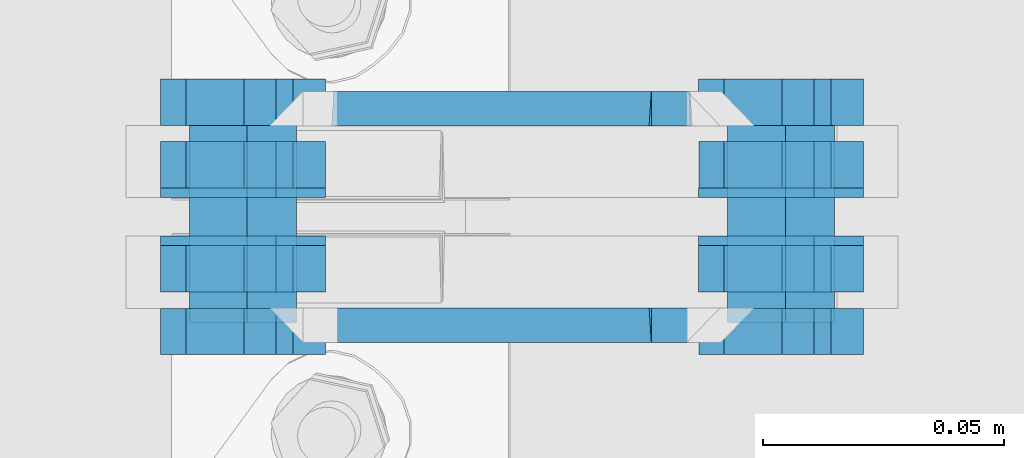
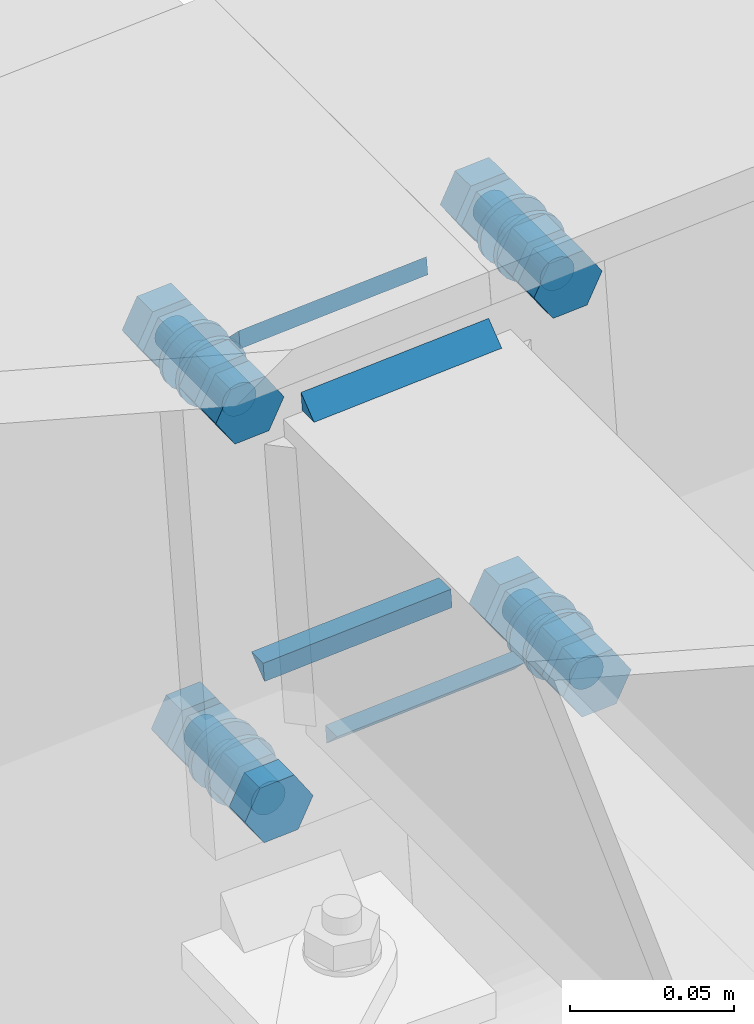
# One storey, part 52 of 72: 32 mechanical fasteners, 6 fasteners.
"""IFC4 building model written with IfcOpenShell, lengths in metres."""

import ifcopenshell
import ifcopenshell.guid

model = None  # the IFC model being written
_history = None  # IfcOwnerHistory: only IFC2X3 demands one
_inside = {}  # id of a spatial element -> (the spatial element, [elements in it])
_under = {}  # id of a project, library or spatial element -> (it, [spatial elements below it])
_declared = {}  # id of a project -> (the project, [libraries it declares])
_typed = {}  # id of a type object -> (the type object, [elements of that type])
_made_of = {}  # id of a material, layer set ... -> (it, [elements and type objects made of it])


def new_model(schema):
    """Start an empty IFC model of exactly this schema.

    Asked for "IFC4X3", IfcOpenShell would pick the latest addendum, in which some entities
    have other attributes; the version numbers below select the first issue.
    IFC2X3 requires an IfcOwnerHistory on every rooted entity: one is made here for all.
    """
    global model, _history
    if schema == "IFC4X3":
        model = ifcopenshell.file(schema_version=(4, 3, 0, 0))
    else:
        model = ifcopenshell.file(schema=schema)
    _inside.clear()
    _under.clear()
    _declared.clear()
    _typed.clear()
    _made_of.clear()
    _history = None
    if model.schema == "IFC2X3":
        org = make("IfcOrganization", Name="unknown")
        user = make(
            "IfcPersonAndOrganization",
            ThePerson=make("IfcPerson", FamilyName="unknown"),
            TheOrganization=org,
        )
        app = make(
            "IfcApplication",
            ApplicationDeveloper=org,
            Version="unknown",
            ApplicationFullName="unknown",
            ApplicationIdentifier="unknown",
        )
        _history = make(
            "IfcOwnerHistory",
            OwningUser=user,
            OwningApplication=app,
            ChangeAction="ADDED",
            CreationDate=0,
        )
    return model


def make(cls, **values):
    """One entity of the class cls with the attributes given. An attribute that is None is left unset."""
    return model.create_entity(
        cls, **{name: value for name, value in values.items() if value is not None}
    )


def rooted(cls, **values):
    """An entity with a GlobalId (a new one), such as an element, a storey or a relation."""
    return make(cls, GlobalId=ifcopenshell.guid.new(), OwnerHistory=_history, **values)


def si_unit(unit_type, name, prefix=None):
    """IfcSIUnit, for example si_unit("LENGTHUNIT", "METRE", prefix="MILLI")."""
    return make("IfcSIUnit", UnitType=unit_type, Prefix=prefix, Name=name)


def assignment(units):
    """IfcUnitAssignment: the units of a project."""
    return None if units is None else make("IfcUnitAssignment", Units=units)


def point(xyz):
    """IfcCartesianPoint."""
    return None if xyz is None else make("IfcCartesianPoint", Coordinates=xyz)


def direction(xyz):
    """IfcDirection."""
    return None if xyz is None else make("IfcDirection", DirectionRatios=xyz)


def frame(location, z_axis=None, x_axis=None):
    """IfcAxis2Placement3D, a coordinate frame: its origin and axes. An axis left out is left unset."""
    return make(
        "IfcAxis2Placement3D",
        Location=point(location),
        Axis=direction(z_axis),
        RefDirection=direction(x_axis),
    )


def origin_with_axes():
    """The frame at (0, 0, 0) with the z axis (0, 0, 1) and the x axis (1, 0, 0) written out."""
    return frame((0.0, 0.0, 0.0), z_axis=(0.0, 0.0, 1.0), x_axis=(1.0, 0.0, 0.0))


def place(relative_to, where):
    """IfcLocalPlacement: puts the frame where relative to a parent placement (None: the world)."""
    return make(
        "IfcLocalPlacement", PlacementRelTo=relative_to, RelativePlacement=where
    )


def context(
    kind, dimensions, precision=None, world=None, true_north=None, identifier=None
):
    """IfcGeometricRepresentationContext, for example the 3D "Model" context."""
    return make(
        "IfcGeometricRepresentationContext",
        ContextIdentifier=identifier,
        ContextType=kind,
        CoordinateSpaceDimension=dimensions,
        Precision=precision,
        WorldCoordinateSystem=world,
        TrueNorth=true_north,
    )


def project(units=None, contexts=None):
    """IfcProject with its units and contexts."""
    return rooted(
        "IfcProject",
        Name="project",
        RepresentationContexts=contexts,
        UnitsInContext=assignment(units),
    )


def spatial(cls, under=None, at=None, **own):
    """A site, building, storey or space (cls), placed at a placement, below another one or the project."""
    s = rooted(cls, ObjectPlacement=at, **own)
    if under is not None:
        _under.setdefault(under.id(), (under, []))[1].append(s)
    return s


def polyline(points):
    """IfcPolyline through the points."""
    return make("IfcPolyline", Points=[point(p) for p in points])


def outline(outer, holes=None, kind="AREA"):
    """IfcArbitraryClosedProfileDef: a profile drawn as a closed curve; with holes, ...WithVoids."""
    if holes is None:
        return make("IfcArbitraryClosedProfileDef", ProfileType=kind, OuterCurve=outer)
    return make(
        "IfcArbitraryProfileDefWithVoids",
        ProfileType=kind,
        OuterCurve=outer,
        InnerCurves=holes,
    )


def extrude(swept, where, along, depth):
    """IfcExtrudedAreaSolid: the profile swept, set in the frame where, extruded along a direction by depth."""
    return make(
        "IfcExtrudedAreaSolid",
        SweptArea=swept,
        Position=where,
        ExtrudedDirection=direction(along),
        Depth=depth,
    )


def shape(context_of_items, identifier, shape_type, items):
    """IfcShapeRepresentation: the items that make up one representation, for example the "Body"."""
    return make(
        "IfcShapeRepresentation",
        ContextOfItems=context_of_items,
        RepresentationIdentifier=identifier,
        RepresentationType=shape_type,
        Items=items,
    )


def made_of(thing, what):
    """Note that an element or type object is made of a material, layer set ...; save() writes the relation."""
    if what is not None:
        _made_of.setdefault(what.id(), (what, []))[1].append(thing)
    return thing


def type_object(cls, material=None, **own):
    """A type object (cls), such as IfcWallType, which elements share."""
    return made_of(rooted(cls, **own), material)


def element(
    cls,
    number,
    at=None,
    inside=None,
    cuts=None,
    type_object=None,
    material=None,
    context=None,
    identifier="Body",
    shape_type=None,
    held_by="IfcProductDefinitionShape",
    body=None,
    shapes=None,
    **own,
):
    """One element of the class cls, such as IfcWall. Its Tag is "e" and its number.

    at: its placement. inside: the storey or other place that contains it. cuts: it is an
    opening in that element (IfcRelVoidsElement). A single representation is given by context,
    identifier, shape_type and body (its items); several are given by shapes. held_by: the class
    of the entity that holds the representations. save() writes the other relations.
    """
    e = rooted(cls, Tag="e%d" % number, ObjectPlacement=at, **own)
    if body is not None:
        shapes = [shape(context, identifier, shape_type, body)]
    if shapes is not None:
        e.Representation = make(held_by, Representations=shapes)
    if inside is not None:
        _inside.setdefault(inside.id(), (inside, []))[1].append(e)
    if cuts is not None:
        rooted(
            "IfcRelVoidsElement", RelatingBuildingElement=cuts, RelatedOpeningElement=e
        )
    if type_object is not None:
        _typed.setdefault(type_object.id(), (type_object, []))[1].append(e)
    return made_of(e, material)


def aggregate(whole, parts):
    """IfcRelAggregates: a whole, such as a stair, and the parts it consists of."""
    return rooted("IfcRelAggregates", RelatingObject=whole, RelatedObjects=parts)


def save(model, path):
    """Write the relations noted so far, then the file.

    IfcRelAggregates (storeys below a building ...), IfcRelContainedInSpatialStructure (elements
    in a storey), IfcRelDefinesByType, IfcRelAssociatesMaterial and IfcRelDeclares: one each for
    every whole, place, type object, material and project.
    """
    for whole, parts in _under.values():
        aggregate(whole, parts)
    for where, things in _inside.values():
        rooted(
            "IfcRelContainedInSpatialStructure",
            RelatedElements=things,
            RelatingStructure=where,
        )
    for kind, things in _typed.values():
        rooted("IfcRelDefinesByType", RelatedObjects=things, RelatingType=kind)
    for what, things in _made_of.values():
        rooted("IfcRelAssociatesMaterial", RelatedObjects=things, RelatingMaterial=what)
    for by, libraries in _declared.values():
        rooted("IfcRelDeclares", RelatingContext=by, RelatedDefinitions=libraries)
    model.write(path)


model = new_model("IFC4")

# Units and contexts
model_context = context("Model", 3, precision=1e-05, world=origin_with_axes())
ifc_project = project(units=[si_unit("LENGTHUNIT", "METRE"), si_unit("AREAUNIT", "SQUARE_METRE"), si_unit("VOLUMEUNIT", "CUBIC_METRE"), si_unit("MASSUNIT", "GRAM", prefix="KILO"), si_unit("TIMEUNIT", "SECOND"), si_unit("PLANEANGLEUNIT", "RADIAN"), si_unit("SOLIDANGLEUNIT", "STERADIAN"), si_unit("THERMODYNAMICTEMPERATUREUNIT", "DEGREE_CELSIUS")], contexts=[model_context])

# Site, building, storey
placement_1 = place(None, origin_with_axes())
site = spatial("IfcSite", under=ifc_project, at=placement_1, Name="Italia", CompositionType="ELEMENT")
building = spatial("IfcBuilding", under=site, at=placement_1, Name="Pensilina", CompositionType="ELEMENT")
storey = spatial("IfcBuildingStorey", under=building, at=placement_1, Name="Storey 0", CompositionType="ELEMENT", Elevation=0.0)

# Fasteners
fastener_type_1 = type_object("IfcFastenerType", Name="Collegamento 0603_0602", PredefinedType="WELD")
placement_2 = place(placement_1, origin_with_axes())
fastener_1_placement = place(placement_2, origin_with_axes())
element("IfcFastener", 1, at=fastener_1_placement, inside=storey, type_object=fastener_type_1, Name="Collegamento 0603_0602", context=model_context, shape_type="SweptSolid", body=[
    extrude(outline(polyline([(0.0, 0.0, 0.0), (0.00717354, -0.00695801, 0.0), (0.0, -0.00695801, 0.0), (0.0, 0.0, 0.0)])), frame((5.83828, 10.5411, 4.09456), z_axis=(-0.997731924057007, 0.0, -0.067312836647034), x_axis=(0.0, -1.0, 0.0)), (0.0, 0.0, 1.0), 0.0660998),
])
fastener_type_2 = type_object("IfcFastenerType", Name="Collegamento 0603_0602", PredefinedType="WELD")
fastener_2_placement = place(placement_2, origin_with_axes())
element("IfcFastener", 2, at=fastener_2_placement, inside=storey, type_object=fastener_type_2, Name="Collegamento 0603_0602", context=model_context, shape_type="SweptSolid", body=[
    extrude(outline(polyline([(0.0, 0.0, 0.0), (-0.00717354, 0.00695801, 0.0), (0.0, 0.00695801, 0.0), (0.0, 0.0, 0.0)])), frame((5.78134, 10.5411, 3.9566), z_axis=(0.997731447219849, 0.0, 0.06731953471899), x_axis=(0.0, 1.0, 0.0)), (0.0, 0.0, 1.0), 0.0661003),
])

# Mechanical fasteners
mechanical_fastener_type_1 = type_object("IfcMechanicalFastenerType", Name="Collegamento 0603_0602", PredefinedType="BOLT")
mechanical_fastener_1_placement = place(placement_2, origin_with_axes())
element("IfcMechanicalFastener", 3, at=mechanical_fastener_1_placement, inside=storey, type_object=mechanical_fastener_type_1, Name="Collegamento 0603_0602", NominalDiameter=0.0119998, context=model_context, shape_type="SweptSolid", body=[
    extrude(outline(polyline([(0.0, 0.0, 0.0), (-0.0119729, -0.000807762, 0.0), (-0.0186586, 0.00915718, 0.0), (-0.0133719, 0.0199296, 0.0), (-0.00139904, 0.0207376, 0.0), (0.00528669, 0.0107727, 0.0), (0.0, 0.0, 0.0)])), frame((5.76574, 10.541, 3.93602), z_axis=(0.0, -1.0, 0.0), x_axis=(1.0, 0.0, 0.0)), (0.0, 0.0, 1.0), 0.00959969),
])
mechanical_fastener_type_2 = type_object("IfcMechanicalFastenerType", Name="Collegamento 0603_0602", PredefinedType="BOLT")
mechanical_fastener_2_placement = place(placement_2, origin_with_axes())
element("IfcMechanicalFastener", 4, at=mechanical_fastener_2_placement, inside=storey, type_object=mechanical_fastener_type_2, Name="Collegamento 0603_0602", NominalDiameter=0.012, context=model_context, shape_type="SweptSolid", body=[
    extrude(outline(polyline([(0.0, 0.0, 0.0), (-0.000204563, -0.00155282, 0.0), (-0.000803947, -0.00300002, 0.0), (-0.00175762, -0.00424266, 0.0), (-0.00300026, -0.00519609, 0.0), (-0.00444698, -0.00579548, 0.0), (-0.00600004, -0.00600004, 0.0), (-0.0075531, -0.00579548, 0.0), (-0.00899982, -0.00519609, 0.0), (-0.0102425, -0.00424266, 0.0), (-0.0111961, -0.00300002, 0.0), (-0.0117955, -0.00155282, 0.0), (-0.0120001, 0.0, 0.0), (-0.0117955, 0.00155282, 0.0), (-0.0111961, 0.00300002, 0.0), (-0.0102425, 0.00424266, 0.0), (-0.00899982, 0.00519609, 0.0), (-0.0075531, 0.00579548, 0.0), (-0.00600004, 0.00600004, 0.0), (-0.00444698, 0.00579548, 0.0), (-0.00300026, 0.00519609, 0.0), (-0.00175762, 0.00424266, 0.0), (-0.000803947, 0.00300002, 0.0), (-0.000204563, 0.00155282, 0.0), (0.0, 0.0, 0.0)])), frame((5.76506, 10.582, 3.94598), z_axis=(0.0, -1.0, 0.0), x_axis=(1.0, 0.0, 0.0)), (0.0, 0.0, 1.0), 0.0410004),
])
mechanical_fastener_type_3 = type_object("IfcMechanicalFastenerType", Name="Collegamento 0603_0602", PredefinedType="BOLT")
mechanical_fastener_3_placement = place(placement_2, origin_with_axes())
element("IfcMechanicalFastener", 5, at=mechanical_fastener_3_placement, inside=storey, type_object=mechanical_fastener_type_3, Name="Collegamento 0603_0602", NominalDiameter=0.0119998, context=model_context, shape_type="SweptSolid", body=[
    extrude(outline(polyline([(0.0, 0.0, 0.0), (-0.0119729, -0.000807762, 0.0), (-0.0186586, 0.00915718, 0.0), (-0.0133719, 0.0199296, 0.0), (-0.00139904, 0.0207376, 0.0), (0.00528669, 0.0107727, 0.0), (0.0, 0.0, 0.0)])), frame((5.76574, 10.5756, 3.93602), z_axis=(0.0, -1.0, 0.0), x_axis=(1.0, 0.0, 0.0)), (0.0, 0.0, 1.0), 0.00959969),
])
mechanical_fastener_type_4 = type_object("IfcMechanicalFastenerType", Name="Collegamento 0603_0602", PredefinedType="BOLT")
mechanical_fastener_4_placement = place(placement_2, origin_with_axes())
element("IfcMechanicalFastener", 6, at=mechanical_fastener_4_placement, inside=storey, type_object=mechanical_fastener_type_4, Name="Collegamento 0603_0602", NominalDiameter=0.024, context=model_context, shape_type="SweptSolid", body=[
    extrude(outline(polyline([(0.0, 0.0, 0.0), (-0.000409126, -0.00310588, 0.0), (-0.00160789, -0.00600004, 0.0), (-0.00351477, -0.00848532, 0.0), (-0.00600004, -0.0103922, 0.0), (-0.00889444, -0.0115912, 0.0), (-0.0120001, -0.0120001, 0.0), (-0.0151057, -0.0115912, 0.0), (-0.0180001, -0.0103922, 0.0), (-0.0204854, -0.00848532, 0.0), (-0.0223923, -0.00600004, 0.0), (-0.023591, -0.00310588, 0.0), (-0.0240002, 0.0, 0.0), (-0.023591, 0.00310588, 0.0), (-0.0223923, 0.00600004, 0.0), (-0.0204854, 0.00848532, 0.0), (-0.0180001, 0.0103922, 0.0), (-0.0151057, 0.0115912, 0.0), (-0.0120001, 0.0120001, 0.0), (-0.00889444, 0.0115912, 0.0), (-0.00600004, 0.0103922, 0.0), (-0.00351477, 0.00848532, 0.0), (-0.00160789, 0.00600004, 0.0), (-0.000409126, 0.00310588, 0.0), (0.0, 0.0, 0.0)])), frame((5.77106, 10.566, 3.94598), z_axis=(0.0, -1.0, 0.0), x_axis=(1.0, 0.0, 0.0)), (0.0, 0.0, 1.0), 0.00199986),
])
mechanical_fastener_type_5 = type_object("IfcMechanicalFastenerType", Name="Collegamento 0603_0602", PredefinedType="BOLT")
mechanical_fastener_5_placement = place(placement_2, origin_with_axes())
element("IfcMechanicalFastener", 7, at=mechanical_fastener_5_placement, inside=storey, type_object=mechanical_fastener_type_5, Name="Collegamento 0603_0602", NominalDiameter=0.0119998, context=model_context, shape_type="SweptSolid", body=[
    extrude(outline(polyline([(0.0, 0.0, 0.0), (-0.0119729, -0.000807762, 0.0), (-0.0186586, 0.00915718, 0.0), (-0.0133719, 0.0199296, 0.0), (-0.00139904, 0.0207376, 0.0), (0.00528669, 0.0107727, 0.0), (0.0, 0.0, 0.0)])), frame((5.87749, 10.541, 3.94355), z_axis=(0.0, -1.0, 0.0), x_axis=(1.0, 0.0, 0.0)), (0.0, 0.0, 1.0), 0.00959969),
])
mechanical_fastener_type_6 = type_object("IfcMechanicalFastenerType", Name="Collegamento 0603_0602", PredefinedType="BOLT")
mechanical_fastener_6_placement = place(placement_2, origin_with_axes())
element("IfcMechanicalFastener", 8, at=mechanical_fastener_6_placement, inside=storey, type_object=mechanical_fastener_type_6, Name="Collegamento 0603_0602", NominalDiameter=0.012, context=model_context, shape_type="SweptSolid", body=[
    extrude(outline(polyline([(0.0, 0.0, 0.0), (-0.000204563, -0.00155282, 0.0), (-0.000803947, -0.00300002, 0.0), (-0.00175762, -0.00424266, 0.0), (-0.00300026, -0.00519609, 0.0), (-0.00444698, -0.00579548, 0.0), (-0.00600004, -0.00600004, 0.0), (-0.0075531, -0.00579548, 0.0), (-0.00899982, -0.00519609, 0.0), (-0.0102425, -0.00424266, 0.0), (-0.0111961, -0.00300002, 0.0), (-0.0117955, -0.00155282, 0.0), (-0.0120001, 0.0, 0.0), (-0.0117955, 0.00155282, 0.0), (-0.0111961, 0.00300002, 0.0), (-0.0102425, 0.00424266, 0.0), (-0.00899982, 0.00519609, 0.0), (-0.0075531, 0.00579548, 0.0), (-0.00600004, 0.00600004, 0.0), (-0.00444698, 0.00579548, 0.0), (-0.00300026, 0.00519609, 0.0), (-0.00175762, 0.00424266, 0.0), (-0.000803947, 0.00300002, 0.0), (-0.000204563, 0.00155282, 0.0), (0.0, 0.0, 0.0)])), frame((5.8768, 10.582, 3.95352), z_axis=(0.0, -1.0, 0.0), x_axis=(1.0, 0.0, 0.0)), (0.0, 0.0, 1.0), 0.0410004),
])
mechanical_fastener_type_7 = type_object("IfcMechanicalFastenerType", Name="Collegamento 0603_0602", PredefinedType="BOLT")
mechanical_fastener_7_placement = place(placement_2, origin_with_axes())
element("IfcMechanicalFastener", 9, at=mechanical_fastener_7_placement, inside=storey, type_object=mechanical_fastener_type_7, Name="Collegamento 0603_0602", NominalDiameter=0.0119998, context=model_context, shape_type="SweptSolid", body=[
    extrude(outline(polyline([(0.0, 0.0, 0.0), (-0.0119729, -0.000807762, 0.0), (-0.0186586, 0.00915718, 0.0), (-0.0133719, 0.0199296, 0.0), (-0.00139904, 0.0207376, 0.0), (0.00528669, 0.0107727, 0.0), (0.0, 0.0, 0.0)])), frame((5.87749, 10.5756, 3.94355), z_axis=(0.0, -1.0, 0.0), x_axis=(1.0, 0.0, 0.0)), (0.0, 0.0, 1.0), 0.00959969),
])
mechanical_fastener_type_8 = type_object("IfcMechanicalFastenerType", Name="Collegamento 0603_0602", PredefinedType="BOLT")
mechanical_fastener_8_placement = place(placement_2, origin_with_axes())
element("IfcMechanicalFastener", 10, at=mechanical_fastener_8_placement, inside=storey, type_object=mechanical_fastener_type_8, Name="Collegamento 0603_0602", NominalDiameter=0.024, context=model_context, shape_type="SweptSolid", body=[
    extrude(outline(polyline([(0.0, 0.0, 0.0), (-0.000409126, -0.00310588, 0.0), (-0.00160789, -0.00600004, 0.0), (-0.00351477, -0.00848532, 0.0), (-0.00600004, -0.0103922, 0.0), (-0.00889444, -0.0115912, 0.0), (-0.0120001, -0.0120001, 0.0), (-0.0151057, -0.0115912, 0.0), (-0.0180001, -0.0103922, 0.0), (-0.0204854, -0.00848532, 0.0), (-0.0223923, -0.00600004, 0.0), (-0.023591, -0.00310588, 0.0), (-0.0240002, 0.0, 0.0), (-0.023591, 0.00310588, 0.0), (-0.0223923, 0.00600004, 0.0), (-0.0204854, 0.00848532, 0.0), (-0.0180001, 0.0103922, 0.0), (-0.0151057, 0.0115912, 0.0), (-0.0120001, 0.0120001, 0.0), (-0.00889444, 0.0115912, 0.0), (-0.00600004, 0.0103922, 0.0), (-0.00351477, 0.00848532, 0.0), (-0.00160789, 0.00600004, 0.0), (-0.000409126, 0.00310588, 0.0), (0.0, 0.0, 0.0)])), frame((5.8828, 10.566, 3.95352), z_axis=(0.0, -1.0, 0.0), x_axis=(1.0, 0.0, 0.0)), (0.0, 0.0, 1.0), 0.00199986),
])
mechanical_fastener_type_9 = type_object("IfcMechanicalFastenerType", Name="Collegamento 0603_0602", PredefinedType="BOLT")
mechanical_fastener_9_placement = place(placement_2, origin_with_axes())
element("IfcMechanicalFastener", 11, at=mechanical_fastener_9_placement, inside=storey, type_object=mechanical_fastener_type_9, Name="Collegamento 0603_0602", NominalDiameter=0.012, context=model_context, shape_type="SweptSolid", body=[
    extrude(outline(polyline([(0.0, 0.0, 0.0), (-0.0119729, -0.000807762, 0.0), (-0.0186586, 0.00915718, 0.0), (-0.0133719, 0.0199299, 0.0), (-0.00139904, 0.0207376, 0.0), (0.00528669, 0.0107727, 0.0), (0.0, 0.0, 0.0)])), frame((5.75551, 10.541, 4.08767), z_axis=(0.0, -1.0, 0.0), x_axis=(1.0, 0.0, 0.0)), (0.0, 0.0, 1.0), 0.00959969),
])
mechanical_fastener_type_10 = type_object("IfcMechanicalFastenerType", Name="Collegamento 0603_0602", PredefinedType="BOLT")
mechanical_fastener_10_placement = place(placement_2, origin_with_axes())
element("IfcMechanicalFastener", 12, at=mechanical_fastener_10_placement, inside=storey, type_object=mechanical_fastener_type_10, Name="Collegamento 0603_0602", NominalDiameter=0.012, context=model_context, shape_type="SweptSolid", body=[
    extrude(outline(polyline([(0.0, 0.0, 0.0), (-0.000204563, -0.00155306, 0.0), (-0.000803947, -0.00299978, 0.0), (-0.00175762, -0.00424242, 0.0), (-0.00300026, -0.00519609, 0.0), (-0.00444698, -0.00579548, 0.0), (-0.00600004, -0.00600004, 0.0), (-0.0075531, -0.00579548, 0.0), (-0.00899982, -0.00519609, 0.0), (-0.0102425, -0.00424242, 0.0), (-0.0111961, -0.00299978, 0.0), (-0.0117955, -0.00155306, 0.0), (-0.0120001, 0.0, 0.0), (-0.0117955, 0.00155306, 0.0), (-0.0111961, 0.00299978, 0.0), (-0.0102425, 0.00424242, 0.0), (-0.00899982, 0.00519609, 0.0), (-0.0075531, 0.00579548, 0.0), (-0.00600004, 0.00600004, 0.0), (-0.00444698, 0.00579548, 0.0), (-0.00300026, 0.00519609, 0.0), (-0.00175762, 0.00424242, 0.0), (-0.000803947, 0.00299978, 0.0), (-0.000204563, 0.00155306, 0.0), (0.0, 0.0, 0.0)])), frame((5.75482, 10.582, 4.09764), z_axis=(0.0, -1.0, 0.0), x_axis=(1.0, 0.0, 0.0)), (0.0, 0.0, 1.0), 0.0410004),
])
mechanical_fastener_type_11 = type_object("IfcMechanicalFastenerType", Name="Collegamento 0603_0602", PredefinedType="BOLT")
mechanical_fastener_11_placement = place(placement_2, origin_with_axes())
element("IfcMechanicalFastener", 13, at=mechanical_fastener_11_placement, inside=storey, type_object=mechanical_fastener_type_11, Name="Collegamento 0603_0602", NominalDiameter=0.012, context=model_context, shape_type="SweptSolid", body=[
    extrude(outline(polyline([(0.0, 0.0, 0.0), (-0.0119729, -0.000807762, 0.0), (-0.0186586, 0.00915718, 0.0), (-0.0133719, 0.0199299, 0.0), (-0.00139904, 0.0207376, 0.0), (0.00528669, 0.0107727, 0.0), (0.0, 0.0, 0.0)])), frame((5.75551, 10.5756, 4.08767), z_axis=(0.0, -1.0, 0.0), x_axis=(1.0, 0.0, 0.0)), (0.0, 0.0, 1.0), 0.00959969),
])
mechanical_fastener_type_12 = type_object("IfcMechanicalFastenerType", Name="Collegamento 0603_0602", PredefinedType="BOLT")
mechanical_fastener_12_placement = place(placement_2, origin_with_axes())
element("IfcMechanicalFastener", 14, at=mechanical_fastener_12_placement, inside=storey, type_object=mechanical_fastener_type_12, Name="Collegamento 0603_0602", NominalDiameter=0.024, context=model_context, shape_type="SweptSolid", body=[
    extrude(outline(polyline([(0.0, 0.0, 0.0), (-0.000409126, -0.00310564, 0.0), (-0.00160789, -0.00600004, 0.0), (-0.00351477, -0.00848532, 0.0), (-0.00600004, -0.0103922, 0.0), (-0.00889444, -0.011591, 0.0), (-0.0120001, -0.0120001, 0.0), (-0.0151057, -0.011591, 0.0), (-0.0180001, -0.0103922, 0.0), (-0.0204854, -0.00848532, 0.0), (-0.0223923, -0.00600004, 0.0), (-0.023591, -0.00310564, 0.0), (-0.0240002, 0.0, 0.0), (-0.023591, 0.00310564, 0.0), (-0.0223923, 0.00600004, 0.0), (-0.0204854, 0.00848532, 0.0), (-0.0180001, 0.0103922, 0.0), (-0.0151057, 0.011591, 0.0), (-0.0120001, 0.0120001, 0.0), (-0.00889444, 0.011591, 0.0), (-0.00600004, 0.0103922, 0.0), (-0.00351477, 0.00848532, 0.0), (-0.00160789, 0.00600004, 0.0), (-0.000409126, 0.00310564, 0.0), (0.0, 0.0, 0.0)])), frame((5.76082, 10.566, 4.09764), z_axis=(0.0, -1.0, 0.0), x_axis=(1.0, 0.0, 0.0)), (0.0, 0.0, 1.0), 0.00199986),
])
mechanical_fastener_type_13 = type_object("IfcMechanicalFastenerType", Name="Collegamento 0603_0602", PredefinedType="BOLT")
mechanical_fastener_13_placement = place(placement_2, origin_with_axes())
element("IfcMechanicalFastener", 15, at=mechanical_fastener_13_placement, inside=storey, type_object=mechanical_fastener_type_13, Name="Collegamento 0603_0602", NominalDiameter=0.012, context=model_context, shape_type="SweptSolid", body=[
    extrude(outline(polyline([(0.0, 0.0, 0.0), (-0.0119729, -0.000807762, 0.0), (-0.0186586, 0.00915718, 0.0), (-0.0133719, 0.0199299, 0.0), (-0.00139904, 0.0207376, 0.0), (0.00528669, 0.0107727, 0.0), (0.0, 0.0, 0.0)])), frame((5.86726, 10.541, 4.09521), z_axis=(0.0, -1.0, 0.0), x_axis=(1.0, 0.0, 0.0)), (0.0, 0.0, 1.0), 0.00959969),
])
mechanical_fastener_type_14 = type_object("IfcMechanicalFastenerType", Name="Collegamento 0603_0602", PredefinedType="BOLT")
mechanical_fastener_14_placement = place(placement_2, origin_with_axes())
element("IfcMechanicalFastener", 16, at=mechanical_fastener_14_placement, inside=storey, type_object=mechanical_fastener_type_14, Name="Collegamento 0603_0602", NominalDiameter=0.012, context=model_context, shape_type="SweptSolid", body=[
    extrude(outline(polyline([(0.0, 0.0, 0.0), (-0.000204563, -0.00155306, 0.0), (-0.000803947, -0.00299978, 0.0), (-0.00175762, -0.00424242, 0.0), (-0.00300026, -0.00519609, 0.0), (-0.00444698, -0.00579548, 0.0), (-0.00600004, -0.00600004, 0.0), (-0.0075531, -0.00579548, 0.0), (-0.00899982, -0.00519609, 0.0), (-0.0102425, -0.00424242, 0.0), (-0.0111961, -0.00299978, 0.0), (-0.0117955, -0.00155306, 0.0), (-0.0120001, 0.0, 0.0), (-0.0117955, 0.00155306, 0.0), (-0.0111961, 0.00299978, 0.0), (-0.0102425, 0.00424242, 0.0), (-0.00899982, 0.00519609, 0.0), (-0.0075531, 0.00579548, 0.0), (-0.00600004, 0.00600004, 0.0), (-0.00444698, 0.00579548, 0.0), (-0.00300026, 0.00519609, 0.0), (-0.00175762, 0.00424242, 0.0), (-0.000803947, 0.00299978, 0.0), (-0.000204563, 0.00155306, 0.0), (0.0, 0.0, 0.0)])), frame((5.86657, 10.582, 4.10518), z_axis=(0.0, -1.0, 0.0), x_axis=(1.0, 0.0, 0.0)), (0.0, 0.0, 1.0), 0.0410004),
])
mechanical_fastener_type_15 = type_object("IfcMechanicalFastenerType", Name="Collegamento 0603_0602", PredefinedType="BOLT")
mechanical_fastener_15_placement = place(placement_2, origin_with_axes())
element("IfcMechanicalFastener", 17, at=mechanical_fastener_15_placement, inside=storey, type_object=mechanical_fastener_type_15, Name="Collegamento 0603_0602", NominalDiameter=0.012, context=model_context, shape_type="SweptSolid", body=[
    extrude(outline(polyline([(0.0, 0.0, 0.0), (-0.0119729, -0.000807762, 0.0), (-0.0186586, 0.00915718, 0.0), (-0.0133719, 0.0199299, 0.0), (-0.00139904, 0.0207376, 0.0), (0.00528669, 0.0107727, 0.0), (0.0, 0.0, 0.0)])), frame((5.86726, 10.5756, 4.09521), z_axis=(0.0, -1.0, 0.0), x_axis=(1.0, 0.0, 0.0)), (0.0, 0.0, 1.0), 0.00959969),
])
mechanical_fastener_type_16 = type_object("IfcMechanicalFastenerType", Name="Collegamento 0603_0602", PredefinedType="BOLT")
mechanical_fastener_16_placement = place(placement_2, origin_with_axes())
element("IfcMechanicalFastener", 18, at=mechanical_fastener_16_placement, inside=storey, type_object=mechanical_fastener_type_16, Name="Collegamento 0603_0602", NominalDiameter=0.024, context=model_context, shape_type="SweptSolid", body=[
    extrude(outline(polyline([(0.0, 0.0, 0.0), (-0.000409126, -0.00310564, 0.0), (-0.00160789, -0.00600004, 0.0), (-0.00351477, -0.00848532, 0.0), (-0.00600004, -0.0103922, 0.0), (-0.00889444, -0.011591, 0.0), (-0.0120001, -0.0120001, 0.0), (-0.0151057, -0.011591, 0.0), (-0.0180001, -0.0103922, 0.0), (-0.0204854, -0.00848532, 0.0), (-0.0223923, -0.00600004, 0.0), (-0.023591, -0.00310564, 0.0), (-0.0240002, 0.0, 0.0), (-0.023591, 0.00310564, 0.0), (-0.0223923, 0.00600004, 0.0), (-0.0204854, 0.00848532, 0.0), (-0.0180001, 0.0103922, 0.0), (-0.0151057, 0.011591, 0.0), (-0.0120001, 0.0120001, 0.0), (-0.00889444, 0.011591, 0.0), (-0.00600004, 0.0103922, 0.0), (-0.00351477, 0.00848532, 0.0), (-0.00160789, 0.00600004, 0.0), (-0.000409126, 0.00310564, 0.0), (0.0, 0.0, 0.0)])), frame((5.87257, 10.566, 4.10518), z_axis=(0.0, -1.0, 0.0), x_axis=(1.0, 0.0, 0.0)), (0.0, 0.0, 1.0), 0.00199986),
])

# Fasteners
fastener_type_3 = type_object("IfcFastenerType", Name="Collegamento 0603_0604", PredefinedType="WELD")
fastener_3_placement = place(placement_2, origin_with_axes())
element("IfcFastener", 19, at=fastener_3_placement, inside=storey, type_object=fastener_type_3, Name="Collegamento 0603_0604", context=model_context, shape_type="SweptSolid", body=[
    extrude(outline(polyline([(0.0, 0.0, 0.0), (0.00717354, -0.00695801, 0.0), (0.0, -0.00695801, 0.0), (0.0, 0.0, 0.0)])), frame((5.77233, 10.5789, 4.09011), z_axis=(0.997731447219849, 0.0, 0.067320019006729), x_axis=(0.0, 1.0, 0.0)), (0.0, 0.0, 1.0), 0.0660999),
])
fastener_type_4 = type_object("IfcFastenerType", Name="Collegamento 0603_0604", PredefinedType="WELD")
fastener_4_placement = place(placement_2, origin_with_axes())
element("IfcFastener", 20, at=fastener_4_placement, inside=storey, type_object=fastener_type_4, Name="Collegamento 0603_0604", context=model_context, shape_type="SweptSolid", body=[
    extrude(outline(polyline([(0.0, 0.0, 0.0), (-0.00717354, 0.00695848, 0.0), (0.0, 0.00695848, 0.0), (0.0, 0.0, 0.0)])), frame((5.84729, 10.5789, 3.96105), z_axis=(-0.997731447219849, 0.0, -0.06731953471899), x_axis=(0.0, -1.0, 0.0)), (0.0, 0.0, 1.0), 0.0661003),
])
fastener_type_5 = type_object("IfcFastenerType", Name="Collegamento 0603_0604", PredefinedType="WELD")
fastener_5_placement = place(placement_2, origin_with_axes())
element("IfcFastener", 21, at=fastener_5_placement, inside=storey, type_object=fastener_type_5, Name="Collegamento 0603_0604", context=model_context, shape_type="SweptSolid", body=[
    extrude(outline(polyline([(0.0, 0.0, 0.0), (0.00717354, -0.00695801, 0.0), (0.0, -0.00695801, 0.0), (0.0, 0.0, 0.0)])), frame((5.77233, 10.5789, 4.09011), z_axis=(0.997731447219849, 0.0, 0.067320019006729), x_axis=(0.0, 1.0, 0.0)), (0.0, 0.0, 1.0), 0.0660999),
])
fastener_type_6 = type_object("IfcFastenerType", Name="Collegamento 0603_0604", PredefinedType="WELD")
fastener_6_placement = place(placement_2, origin_with_axes())
element("IfcFastener", 22, at=fastener_6_placement, inside=storey, type_object=fastener_type_6, Name="Collegamento 0603_0604", context=model_context, shape_type="SweptSolid", body=[
    extrude(outline(polyline([(0.0, 0.0, 0.0), (-0.00717354, 0.00695848, 0.0), (0.0, 0.00695848, 0.0), (0.0, 0.0, 0.0)])), frame((5.84729, 10.5789, 3.96105), z_axis=(-0.997731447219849, 0.0, -0.06731953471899), x_axis=(0.0, -1.0, 0.0)), (0.0, 0.0, 1.0), 0.0661003),
])

# Mechanical fasteners
mechanical_fastener_type_17 = type_object("IfcMechanicalFastenerType", Name="Collegamento 0603_0604", PredefinedType="BOLT")
mechanical_fastener_17_placement = place(placement_2, origin_with_axes())
element("IfcMechanicalFastener", 23, at=mechanical_fastener_17_placement, inside=storey, type_object=mechanical_fastener_type_17, Name="Collegamento 0603_0604", NominalDiameter=0.0119998, context=model_context, shape_type="SweptSolid", body=[
    extrude(outline(polyline([(0.0, 0.0, 0.0), (-0.0119729, 0.000807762, 0.0), (-0.0172596, 0.0115805, 0.0), (-0.0105739, 0.0215454, 0.0), (0.00139904, 0.0207374, 0.0), (0.00668573, 0.00996494, 0.0), (0.0, 0.0, 0.0)])), frame((5.86551, 10.579, 3.94275), z_axis=(0.0, 1.0, 0.0), x_axis=(-1.0, 0.0, 0.0)), (0.0, 0.0, 1.0), 0.00959969),
])
mechanical_fastener_type_18 = type_object("IfcMechanicalFastenerType", Name="Collegamento 0603_0604", PredefinedType="BOLT")
mechanical_fastener_18_placement = place(placement_2, origin_with_axes())
element("IfcMechanicalFastener", 24, at=mechanical_fastener_18_placement, inside=storey, type_object=mechanical_fastener_type_18, Name="Collegamento 0603_0604", NominalDiameter=0.012, context=model_context, shape_type="SweptSolid", body=[
    extrude(outline(polyline([(0.0, 0.0, 0.0), (-0.000204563, -0.00155282, 0.0), (-0.000803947, -0.00300002, 0.0), (-0.00175762, -0.00424266, 0.0), (-0.00300026, -0.00519609, 0.0), (-0.00444698, -0.00579548, 0.0), (-0.00600004, -0.00600004, 0.0), (-0.0075531, -0.00579548, 0.0), (-0.00899982, -0.00519609, 0.0), (-0.0102425, -0.00424266, 0.0), (-0.0111961, -0.00300002, 0.0), (-0.0117955, -0.00155282, 0.0), (-0.0120001, 0.0, 0.0), (-0.0117955, 0.00155282, 0.0), (-0.0111961, 0.00300002, 0.0), (-0.0102425, 0.00424266, 0.0), (-0.00899982, 0.00519609, 0.0), (-0.0075531, 0.00579548, 0.0), (-0.00600004, 0.00600004, 0.0), (-0.00444698, 0.00579548, 0.0), (-0.00300026, 0.00519609, 0.0), (-0.00175762, 0.00424266, 0.0), (-0.000803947, 0.00300002, 0.0), (-0.000204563, 0.00155282, 0.0), (0.0, 0.0, 0.0)])), frame((5.8648, 10.538, 3.95352), z_axis=(0.0, 1.0, 0.0), x_axis=(-1.0, 0.0, 0.0)), (0.0, 0.0, 1.0), 0.0410004),
])
mechanical_fastener_type_19 = type_object("IfcMechanicalFastenerType", Name="Collegamento 0603_0604", PredefinedType="BOLT")
mechanical_fastener_19_placement = place(placement_2, origin_with_axes())
element("IfcMechanicalFastener", 25, at=mechanical_fastener_19_placement, inside=storey, type_object=mechanical_fastener_type_19, Name="Collegamento 0603_0604", NominalDiameter=0.0119998, context=model_context, shape_type="SweptSolid", body=[
    extrude(outline(polyline([(0.0, 0.0, 0.0), (-0.0119729, 0.000807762, 0.0), (-0.0172596, 0.0115805, 0.0), (-0.0105739, 0.0215454, 0.0), (0.00139904, 0.0207374, 0.0), (0.00668573, 0.00996494, 0.0), (0.0, 0.0, 0.0)])), frame((5.86551, 10.5444, 3.94275), z_axis=(0.0, 1.0, 0.0), x_axis=(-1.0, 0.0, 0.0)), (0.0, 0.0, 1.0), 0.00959969),
])
mechanical_fastener_type_20 = type_object("IfcMechanicalFastenerType", Name="Collegamento 0603_0604", PredefinedType="BOLT")
mechanical_fastener_20_placement = place(placement_2, origin_with_axes())
element("IfcMechanicalFastener", 26, at=mechanical_fastener_20_placement, inside=storey, type_object=mechanical_fastener_type_20, Name="Collegamento 0603_0604", NominalDiameter=0.024, context=model_context, shape_type="SweptSolid", body=[
    extrude(outline(polyline([(0.0, 0.0, 0.0), (-0.000409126, -0.00310588, 0.0), (-0.00160789, -0.00600004, 0.0), (-0.00351477, -0.00848532, 0.0), (-0.00600004, -0.0103922, 0.0), (-0.00889444, -0.0115912, 0.0), (-0.0120001, -0.0120001, 0.0), (-0.0151057, -0.0115912, 0.0), (-0.0180001, -0.0103922, 0.0), (-0.0204854, -0.00848532, 0.0), (-0.0223923, -0.00600004, 0.0), (-0.023591, -0.00310588, 0.0), (-0.0240002, 0.0, 0.0), (-0.023591, 0.00310588, 0.0), (-0.0223923, 0.00600004, 0.0), (-0.0204854, 0.00848532, 0.0), (-0.0180001, 0.0103922, 0.0), (-0.0151057, 0.0115912, 0.0), (-0.0120001, 0.0120001, 0.0), (-0.00889444, 0.0115912, 0.0), (-0.00600004, 0.0103922, 0.0), (-0.00351477, 0.00848532, 0.0), (-0.00160789, 0.00600004, 0.0), (-0.000409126, 0.00310588, 0.0), (0.0, 0.0, 0.0)])), frame((5.8588, 10.554, 3.95352), z_axis=(0.0, 1.0, 0.0), x_axis=(-1.0, 0.0, 0.0)), (0.0, 0.0, 1.0), 0.00199986),
])
mechanical_fastener_type_21 = type_object("IfcMechanicalFastenerType", Name="Collegamento 0603_0604", PredefinedType="BOLT")
mechanical_fastener_21_placement = place(placement_2, origin_with_axes())
element("IfcMechanicalFastener", 27, at=mechanical_fastener_21_placement, inside=storey, type_object=mechanical_fastener_type_21, Name="Collegamento 0603_0604", NominalDiameter=0.0119998, context=model_context, shape_type="SweptSolid", body=[
    extrude(outline(polyline([(0.0, 0.0, 0.0), (-0.0119729, 0.000807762, 0.0), (-0.0172596, 0.0115805, 0.0), (-0.0105739, 0.0215454, 0.0), (0.00139904, 0.0207374, 0.0), (0.00668573, 0.00996494, 0.0), (0.0, 0.0, 0.0)])), frame((5.75377, 10.579, 3.93521), z_axis=(0.0, 1.0, 0.0), x_axis=(-1.0, 0.0, 0.0)), (0.0, 0.0, 1.0), 0.00959969),
])
mechanical_fastener_type_22 = type_object("IfcMechanicalFastenerType", Name="Collegamento 0603_0604", PredefinedType="BOLT")
mechanical_fastener_22_placement = place(placement_2, origin_with_axes())
element("IfcMechanicalFastener", 28, at=mechanical_fastener_22_placement, inside=storey, type_object=mechanical_fastener_type_22, Name="Collegamento 0603_0604", NominalDiameter=0.012, context=model_context, shape_type="SweptSolid", body=[
    extrude(outline(polyline([(0.0, 0.0, 0.0), (-0.000204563, -0.00155282, 0.0), (-0.000803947, -0.00300002, 0.0), (-0.00175762, -0.00424266, 0.0), (-0.00300026, -0.00519609, 0.0), (-0.00444698, -0.00579548, 0.0), (-0.00600004, -0.00600004, 0.0), (-0.0075531, -0.00579548, 0.0), (-0.00899982, -0.00519609, 0.0), (-0.0102425, -0.00424266, 0.0), (-0.0111961, -0.00300002, 0.0), (-0.0117955, -0.00155282, 0.0), (-0.0120001, 0.0, 0.0), (-0.0117955, 0.00155282, 0.0), (-0.0111961, 0.00300002, 0.0), (-0.0102425, 0.00424266, 0.0), (-0.00899982, 0.00519609, 0.0), (-0.0075531, 0.00579548, 0.0), (-0.00600004, 0.00600004, 0.0), (-0.00444698, 0.00579548, 0.0), (-0.00300026, 0.00519609, 0.0), (-0.00175762, 0.00424266, 0.0), (-0.000803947, 0.00300002, 0.0), (-0.000204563, 0.00155282, 0.0), (0.0, 0.0, 0.0)])), frame((5.75306, 10.538, 3.94598), z_axis=(0.0, 1.0, 0.0), x_axis=(-1.0, 0.0, 0.0)), (0.0, 0.0, 1.0), 0.0410004),
])
mechanical_fastener_type_23 = type_object("IfcMechanicalFastenerType", Name="Collegamento 0603_0604", PredefinedType="BOLT")
mechanical_fastener_23_placement = place(placement_2, origin_with_axes())
element("IfcMechanicalFastener", 29, at=mechanical_fastener_23_placement, inside=storey, type_object=mechanical_fastener_type_23, Name="Collegamento 0603_0604", NominalDiameter=0.0119998, context=model_context, shape_type="SweptSolid", body=[
    extrude(outline(polyline([(0.0, 0.0, 0.0), (-0.0119729, 0.000807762, 0.0), (-0.0172596, 0.0115805, 0.0), (-0.0105739, 0.0215454, 0.0), (0.00139904, 0.0207374, 0.0), (0.00668573, 0.00996494, 0.0), (0.0, 0.0, 0.0)])), frame((5.75377, 10.5444, 3.93521), z_axis=(0.0, 1.0, 0.0), x_axis=(-1.0, 0.0, 0.0)), (0.0, 0.0, 1.0), 0.00959969),
])
mechanical_fastener_type_24 = type_object("IfcMechanicalFastenerType", Name="Collegamento 0603_0604", PredefinedType="BOLT")
mechanical_fastener_24_placement = place(placement_2, origin_with_axes())
element("IfcMechanicalFastener", 30, at=mechanical_fastener_24_placement, inside=storey, type_object=mechanical_fastener_type_24, Name="Collegamento 0603_0604", NominalDiameter=0.024, context=model_context, shape_type="SweptSolid", body=[
    extrude(outline(polyline([(0.0, 0.0, 0.0), (-0.000409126, -0.00310588, 0.0), (-0.00160789, -0.00600004, 0.0), (-0.00351477, -0.00848532, 0.0), (-0.00600004, -0.0103922, 0.0), (-0.00889444, -0.0115912, 0.0), (-0.0120001, -0.0120001, 0.0), (-0.0151057, -0.0115912, 0.0), (-0.0180001, -0.0103922, 0.0), (-0.0204854, -0.00848532, 0.0), (-0.0223923, -0.00600004, 0.0), (-0.023591, -0.00310588, 0.0), (-0.0240002, 0.0, 0.0), (-0.023591, 0.00310588, 0.0), (-0.0223923, 0.00600004, 0.0), (-0.0204854, 0.00848532, 0.0), (-0.0180001, 0.0103922, 0.0), (-0.0151057, 0.0115912, 0.0), (-0.0120001, 0.0120001, 0.0), (-0.00889444, 0.0115912, 0.0), (-0.00600004, 0.0103922, 0.0), (-0.00351477, 0.00848532, 0.0), (-0.00160789, 0.00600004, 0.0), (-0.000409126, 0.00310588, 0.0), (0.0, 0.0, 0.0)])), frame((5.74706, 10.554, 3.94598), z_axis=(0.0, 1.0, 0.0), x_axis=(-1.0, 0.0, 0.0)), (0.0, 0.0, 1.0), 0.00199986),
])
mechanical_fastener_type_25 = type_object("IfcMechanicalFastenerType", Name="Collegamento 0603_0604", PredefinedType="BOLT")
mechanical_fastener_25_placement = place(placement_2, origin_with_axes())
element("IfcMechanicalFastener", 31, at=mechanical_fastener_25_placement, inside=storey, type_object=mechanical_fastener_type_25, Name="Collegamento 0603_0604", NominalDiameter=0.012, context=model_context, shape_type="SweptSolid", body=[
    extrude(outline(polyline([(0.0, 0.0, 0.0), (-0.0119729, 0.000807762, 0.0), (-0.0172596, 0.0115805, 0.0), (-0.0105739, 0.0215454, 0.0), (0.00139904, 0.0207376, 0.0), (0.00668573, 0.00996494, 0.0), (0.0, 0.0, 0.0)])), frame((5.85528, 10.579, 4.0944), z_axis=(0.0, 1.0, 0.0), x_axis=(-1.0, 0.0, 0.0)), (0.0, 0.0, 1.0), 0.00959969),
])
mechanical_fastener_type_26 = type_object("IfcMechanicalFastenerType", Name="Collegamento 0603_0604", PredefinedType="BOLT")
mechanical_fastener_26_placement = place(placement_2, origin_with_axes())
element("IfcMechanicalFastener", 32, at=mechanical_fastener_26_placement, inside=storey, type_object=mechanical_fastener_type_26, Name="Collegamento 0603_0604", NominalDiameter=0.012, context=model_context, shape_type="SweptSolid", body=[
    extrude(outline(polyline([(0.0, 0.0, 0.0), (-0.000204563, -0.00155306, 0.0), (-0.000803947, -0.00299978, 0.0), (-0.00175762, -0.00424242, 0.0), (-0.00300026, -0.00519609, 0.0), (-0.00444698, -0.00579548, 0.0), (-0.00600004, -0.00600004, 0.0), (-0.0075531, -0.00579548, 0.0), (-0.00899982, -0.00519609, 0.0), (-0.0102425, -0.00424242, 0.0), (-0.0111961, -0.00299978, 0.0), (-0.0117955, -0.00155306, 0.0), (-0.0120001, 0.0, 0.0), (-0.0117955, 0.00155306, 0.0), (-0.0111961, 0.00299978, 0.0), (-0.0102425, 0.00424242, 0.0), (-0.00899982, 0.00519609, 0.0), (-0.0075531, 0.00579548, 0.0), (-0.00600004, 0.00600004, 0.0), (-0.00444698, 0.00579548, 0.0), (-0.00300026, 0.00519609, 0.0), (-0.00175762, 0.00424242, 0.0), (-0.000803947, 0.00299978, 0.0), (-0.000204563, 0.00155306, 0.0), (0.0, 0.0, 0.0)])), frame((5.85457, 10.538, 4.10518), z_axis=(0.0, 1.0, 0.0), x_axis=(-1.0, 0.0, 0.0)), (0.0, 0.0, 1.0), 0.0410004),
])
mechanical_fastener_type_27 = type_object("IfcMechanicalFastenerType", Name="Collegamento 0603_0604", PredefinedType="BOLT")
mechanical_fastener_27_placement = place(placement_2, origin_with_axes())
element("IfcMechanicalFastener", 33, at=mechanical_fastener_27_placement, inside=storey, type_object=mechanical_fastener_type_27, Name="Collegamento 0603_0604", NominalDiameter=0.012, context=model_context, shape_type="SweptSolid", body=[
    extrude(outline(polyline([(0.0, 0.0, 0.0), (-0.0119729, 0.000807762, 0.0), (-0.0172596, 0.0115805, 0.0), (-0.0105739, 0.0215454, 0.0), (0.00139904, 0.0207376, 0.0), (0.00668573, 0.00996494, 0.0), (0.0, 0.0, 0.0)])), frame((5.85528, 10.5444, 4.0944), z_axis=(0.0, 1.0, 0.0), x_axis=(-1.0, 0.0, 0.0)), (0.0, 0.0, 1.0), 0.00959969),
])
mechanical_fastener_type_28 = type_object("IfcMechanicalFastenerType", Name="Collegamento 0603_0604", PredefinedType="BOLT")
mechanical_fastener_28_placement = place(placement_2, origin_with_axes())
element("IfcMechanicalFastener", 34, at=mechanical_fastener_28_placement, inside=storey, type_object=mechanical_fastener_type_28, Name="Collegamento 0603_0604", NominalDiameter=0.024, context=model_context, shape_type="SweptSolid", body=[
    extrude(outline(polyline([(0.0, 0.0, 0.0), (-0.000409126, -0.00310564, 0.0), (-0.00160789, -0.00600004, 0.0), (-0.00351477, -0.00848532, 0.0), (-0.00600004, -0.0103922, 0.0), (-0.00889444, -0.011591, 0.0), (-0.0120001, -0.0120001, 0.0), (-0.0151057, -0.011591, 0.0), (-0.0180001, -0.0103922, 0.0), (-0.0204854, -0.00848532, 0.0), (-0.0223923, -0.00600004, 0.0), (-0.023591, -0.00310564, 0.0), (-0.0240002, 0.0, 0.0), (-0.023591, 0.00310564, 0.0), (-0.0223923, 0.00600004, 0.0), (-0.0204854, 0.00848532, 0.0), (-0.0180001, 0.0103922, 0.0), (-0.0151057, 0.011591, 0.0), (-0.0120001, 0.0120001, 0.0), (-0.00889444, 0.011591, 0.0), (-0.00600004, 0.0103922, 0.0), (-0.00351477, 0.00848532, 0.0), (-0.00160789, 0.00600004, 0.0), (-0.000409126, 0.00310564, 0.0), (0.0, 0.0, 0.0)])), frame((5.84857, 10.554, 4.10518), z_axis=(0.0, 1.0, 0.0), x_axis=(-1.0, 0.0, 0.0)), (0.0, 0.0, 1.0), 0.00199986),
])
mechanical_fastener_type_29 = type_object("IfcMechanicalFastenerType", Name="Collegamento 0603_0604", PredefinedType="BOLT")
mechanical_fastener_29_placement = place(placement_2, origin_with_axes())
element("IfcMechanicalFastener", 35, at=mechanical_fastener_29_placement, inside=storey, type_object=mechanical_fastener_type_29, Name="Collegamento 0603_0604", NominalDiameter=0.012, context=model_context, shape_type="SweptSolid", body=[
    extrude(outline(polyline([(0.0, 0.0, 0.0), (-0.0119729, 0.000807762, 0.0), (-0.0172596, 0.0115805, 0.0), (-0.0105739, 0.0215454, 0.0), (0.00139904, 0.0207376, 0.0), (0.00668573, 0.00996494, 0.0), (0.0, 0.0, 0.0)])), frame((5.74354, 10.579, 4.08686), z_axis=(0.0, 1.0, 0.0), x_axis=(-1.0, 0.0, 0.0)), (0.0, 0.0, 1.0), 0.00959969),
])
mechanical_fastener_type_30 = type_object("IfcMechanicalFastenerType", Name="Collegamento 0603_0604", PredefinedType="BOLT")
mechanical_fastener_30_placement = place(placement_2, origin_with_axes())
element("IfcMechanicalFastener", 36, at=mechanical_fastener_30_placement, inside=storey, type_object=mechanical_fastener_type_30, Name="Collegamento 0603_0604", NominalDiameter=0.012, context=model_context, shape_type="SweptSolid", body=[
    extrude(outline(polyline([(0.0, 0.0, 0.0), (-0.000204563, -0.00155306, 0.0), (-0.000803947, -0.00299978, 0.0), (-0.00175762, -0.00424242, 0.0), (-0.00300026, -0.00519609, 0.0), (-0.00444698, -0.00579548, 0.0), (-0.00600004, -0.00600004, 0.0), (-0.0075531, -0.00579548, 0.0), (-0.00899982, -0.00519609, 0.0), (-0.0102425, -0.00424242, 0.0), (-0.0111961, -0.00299978, 0.0), (-0.0117955, -0.00155306, 0.0), (-0.0120001, 0.0, 0.0), (-0.0117955, 0.00155306, 0.0), (-0.0111961, 0.00299978, 0.0), (-0.0102425, 0.00424242, 0.0), (-0.00899982, 0.00519609, 0.0), (-0.0075531, 0.00579548, 0.0), (-0.00600004, 0.00600004, 0.0), (-0.00444698, 0.00579548, 0.0), (-0.00300026, 0.00519609, 0.0), (-0.00175762, 0.00424242, 0.0), (-0.000803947, 0.00299978, 0.0), (-0.000204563, 0.00155306, 0.0), (0.0, 0.0, 0.0)])), frame((5.74282, 10.538, 4.09764), z_axis=(0.0, 1.0, 0.0), x_axis=(-1.0, 0.0, 0.0)), (0.0, 0.0, 1.0), 0.0410004),
])
mechanical_fastener_type_31 = type_object("IfcMechanicalFastenerType", Name="Collegamento 0603_0604", PredefinedType="BOLT")
mechanical_fastener_31_placement = place(placement_2, origin_with_axes())
element("IfcMechanicalFastener", 37, at=mechanical_fastener_31_placement, inside=storey, type_object=mechanical_fastener_type_31, Name="Collegamento 0603_0604", NominalDiameter=0.012, context=model_context, shape_type="SweptSolid", body=[
    extrude(outline(polyline([(0.0, 0.0, 0.0), (-0.0119729, 0.000807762, 0.0), (-0.0172596, 0.0115805, 0.0), (-0.0105739, 0.0215454, 0.0), (0.00139904, 0.0207376, 0.0), (0.00668573, 0.00996494, 0.0), (0.0, 0.0, 0.0)])), frame((5.74354, 10.5444, 4.08686), z_axis=(0.0, 1.0, 0.0), x_axis=(-1.0, 0.0, 0.0)), (0.0, 0.0, 1.0), 0.00959969),
])
mechanical_fastener_type_32 = type_object("IfcMechanicalFastenerType", Name="Collegamento 0603_0604", PredefinedType="BOLT")
mechanical_fastener_32_placement = place(placement_2, origin_with_axes())
element("IfcMechanicalFastener", 38, at=mechanical_fastener_32_placement, inside=storey, type_object=mechanical_fastener_type_32, Name="Collegamento 0603_0604", NominalDiameter=0.024, context=model_context, shape_type="SweptSolid", body=[
    extrude(outline(polyline([(0.0, 0.0, 0.0), (-0.000409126, -0.00310564, 0.0), (-0.00160789, -0.00600004, 0.0), (-0.00351477, -0.00848532, 0.0), (-0.00600004, -0.0103922, 0.0), (-0.00889444, -0.011591, 0.0), (-0.0120001, -0.0120001, 0.0), (-0.0151057, -0.011591, 0.0), (-0.0180001, -0.0103922, 0.0), (-0.0204854, -0.00848532, 0.0), (-0.0223923, -0.00600004, 0.0), (-0.023591, -0.00310564, 0.0), (-0.0240002, 0.0, 0.0), (-0.023591, 0.00310564, 0.0), (-0.0223923, 0.00600004, 0.0), (-0.0204854, 0.00848532, 0.0), (-0.0180001, 0.0103922, 0.0), (-0.0151057, 0.011591, 0.0), (-0.0120001, 0.0120001, 0.0), (-0.00889444, 0.011591, 0.0), (-0.00600004, 0.0103922, 0.0), (-0.00351477, 0.00848532, 0.0), (-0.00160789, 0.00600004, 0.0), (-0.000409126, 0.00310564, 0.0), (0.0, 0.0, 0.0)])), frame((5.73682, 10.554, 4.09764), z_axis=(0.0, 1.0, 0.0), x_axis=(-1.0, 0.0, 0.0)), (0.0, 0.0, 1.0), 0.00199986),
])

save(model, "model.ifc")
